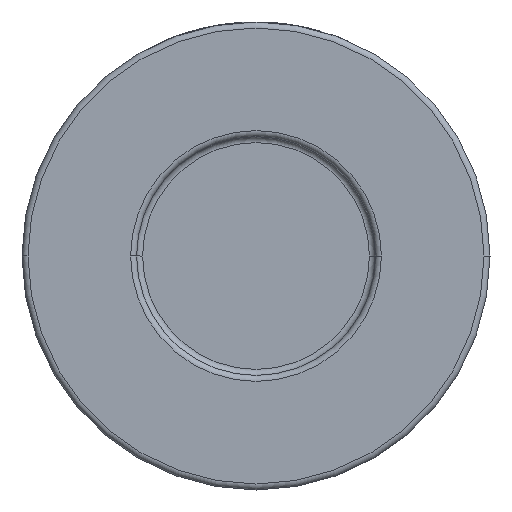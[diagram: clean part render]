
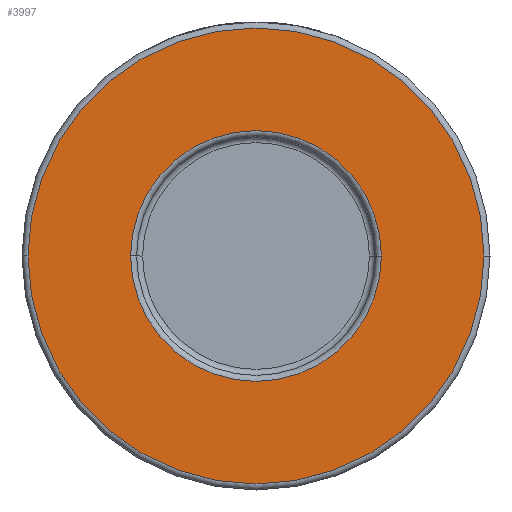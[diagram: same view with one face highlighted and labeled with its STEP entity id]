
A CAD part, front view. The second image highlights one B-rep face of the part: STEP entity #3997.
In plain terms, the highlighted planar face has unit normal (0, -1, 0).
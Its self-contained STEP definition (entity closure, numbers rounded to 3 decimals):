
#18 = CARTESIAN_POINT ( 'NONE',  ( 0., -19., 0. ) ) ;
#67 = CIRCLE ( 'NONE', #1689, 20.9 ) ;
#181 = DIRECTION ( 'NONE',  ( 0., -1., 0. ) ) ;
#254 = VERTEX_POINT ( 'NONE', #3535 ) ;
#282 = DIRECTION ( 'NONE',  ( 0., 1., 0. ) ) ;
#333 = CARTESIAN_POINT ( 'NONE',  ( 0., -19., 0. ) ) ;
#467 = CARTESIAN_POINT ( 'NONE',  ( 20.9, -19., 0. ) ) ;
#709 = VERTEX_POINT ( 'NONE', #2505 ) ;
#799 = EDGE_CURVE ( 'NONE', #3977, #709, #3703, .T. ) ;
#926 = CARTESIAN_POINT ( 'NONE',  ( 0., -19., 0. ) ) ;
#1142 = EDGE_LOOP ( 'NONE', ( #3305, #2477 ) ) ;
#1280 = EDGE_CURVE ( 'NONE', #709, #3977, #1936, .T. ) ;
#1533 = CIRCLE ( 'NONE', #3134, 20.9 ) ;
#1689 = AXIS2_PLACEMENT_3D ( 'NONE', #333, #4173, #2450 ) ;
#1697 = PLANE ( 'NONE',  #1918 ) ;
#1918 = AXIS2_PLACEMENT_3D ( 'NONE', #3082, #4481, #2633 ) ;
#1936 = CIRCLE ( 'NONE', #4337, 38. ) ;
#2298 = EDGE_CURVE ( 'NONE', #3723, #254, #1533, .T. ) ;
#2445 = ORIENTED_EDGE ( 'NONE', *, *, #3658, .T. ) ;
#2450 = DIRECTION ( 'NONE',  ( 1., 0., 0. ) ) ;
#2477 = ORIENTED_EDGE ( 'NONE', *, *, #799, .T. ) ;
#2505 = CARTESIAN_POINT ( 'NONE',  ( 38., -19., 0. ) ) ;
#2633 = DIRECTION ( 'NONE',  ( 1., 0., 0. ) ) ;
#2795 = DIRECTION ( 'NONE',  ( 1., 0., 0. ) ) ;
#3058 = FACE_BOUND ( 'NONE', #4172, .T. ) ;
#3082 = CARTESIAN_POINT ( 'NONE',  ( 39., -19., 0. ) ) ;
#3134 = AXIS2_PLACEMENT_3D ( 'NONE', #926, #282, #3788 ) ;
#3305 = ORIENTED_EDGE ( 'NONE', *, *, #1280, .T. ) ;
#3385 = CARTESIAN_POINT ( 'NONE',  ( -38., -19., 0. ) ) ;
#3426 = FACE_OUTER_BOUND ( 'NONE', #1142, .T. ) ;
#3460 = ORIENTED_EDGE ( 'NONE', *, *, #2298, .T. ) ;
#3535 = CARTESIAN_POINT ( 'NONE',  ( -20.9, -19., 0. ) ) ;
#3658 = EDGE_CURVE ( 'NONE', #254, #3723, #67, .T. ) ;
#3668 = CARTESIAN_POINT ( 'NONE',  ( 0., -19., 0. ) ) ;
#3703 = CIRCLE ( 'NONE', #4195, 38. ) ;
#3723 = VERTEX_POINT ( 'NONE', #467 ) ;
#3788 = DIRECTION ( 'NONE',  ( 1., 0., 0. ) ) ;
#3977 = VERTEX_POINT ( 'NONE', #3385 ) ;
#3982 = DIRECTION ( 'NONE',  ( 1., 0., 0. ) ) ;
#3997 = ADVANCED_FACE ( 'NONE', ( #3058, #3426 ), #1697, .T. ) ;
#4172 = EDGE_LOOP ( 'NONE', ( #3460, #2445 ) ) ;
#4173 = DIRECTION ( 'NONE',  ( 0., 1., 0. ) ) ;
#4195 = AXIS2_PLACEMENT_3D ( 'NONE', #3668, #181, #3982 ) ;
#4337 = AXIS2_PLACEMENT_3D ( 'NONE', #18, #4538, #2795 ) ;
#4481 = DIRECTION ( 'NONE',  ( 0., -1., 0. ) ) ;
#4538 = DIRECTION ( 'NONE',  ( 0., -1., 0. ) ) ;
